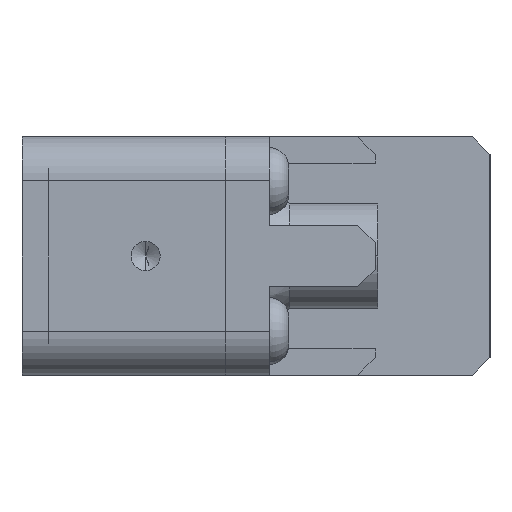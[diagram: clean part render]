
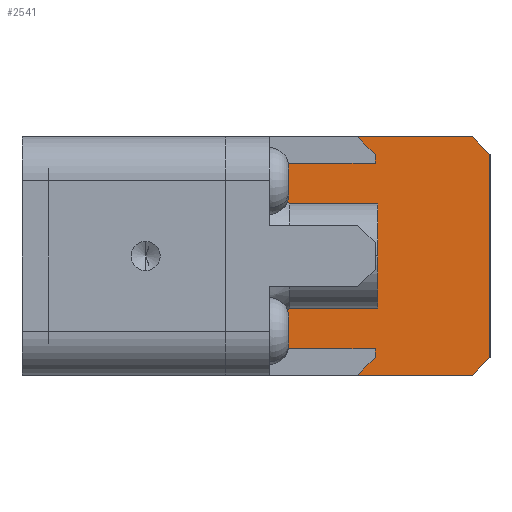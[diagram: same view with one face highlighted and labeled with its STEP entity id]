
A CAD part, left-side view. The second image highlights one B-rep face of the part: STEP entity #2541.
In plain terms, the highlighted planar face has unit normal (-1, 0, 0).
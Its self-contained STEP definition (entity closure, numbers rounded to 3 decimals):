
#125 = VERTEX_POINT ( 'NONE', #2930 ) ;
#451 = PLANE ( 'NONE',  #6505 ) ;
#567 = DIRECTION ( 'NONE',  ( 0., 1., 0. ) ) ;
#723 = ORIENTED_EDGE ( 'NONE', *, *, #2144, .T. ) ;
#1443 = EDGE_CURVE ( 'NONE', #125, #9687, #14210, .T. ) ;
#1666 = DIRECTION ( 'NONE',  ( 0., 0., 1. ) ) ;
#1953 = VECTOR ( 'NONE', #3671, 1000. ) ;
#2144 = EDGE_CURVE ( 'NONE', #2184, #125, #2277, .T. ) ;
#2184 = VERTEX_POINT ( 'NONE', #6077 ) ;
#2277 = LINE ( 'NONE', #7467, #9706 ) ;
#2435 = CARTESIAN_POINT ( 'NONE',  ( -65.5, 30., 11.5 ) ) ;
#2541 = ADVANCED_FACE ( 'NONE', ( #11734 ), #451, .F. ) ;
#2930 = CARTESIAN_POINT ( 'NONE',  ( -65.5, 5., 13.5 ) ) ;
#3671 = DIRECTION ( 'NONE',  ( 0., -0.707, -0.707 ) ) ;
#3801 = ORIENTED_EDGE ( 'NONE', *, *, #6635, .F. ) ;
#3849 = EDGE_CURVE ( 'NONE', #15575, #8784, #11165, .T. ) ;
#3972 = ORIENTED_EDGE ( 'NONE', *, *, #11789, .T. ) ;
#4063 = EDGE_CURVE ( 'NONE', #15575, #10914, #10750, .T. ) ;
#4646 = DIRECTION ( 'NONE',  ( 0., 0., -1. ) ) ;
#5513 = LINE ( 'NONE', #9141, #9383 ) ;
#6077 = CARTESIAN_POINT ( 'NONE',  ( -65.5, 5., -13.5 ) ) ;
#6235 = DIRECTION ( 'NONE',  ( 0., 0., 1. ) ) ;
#6465 = ORIENTED_EDGE ( 'NONE', *, *, #4063, .F. ) ;
#6505 = AXIS2_PLACEMENT_3D ( 'NONE', #10521, #7377, #4646 ) ;
#6635 = EDGE_CURVE ( 'NONE', #2184, #8784, #5513, .T. ) ;
#7314 = ORIENTED_EDGE ( 'NONE', *, *, #3849, .T. ) ;
#7377 = DIRECTION ( 'NONE',  ( 1., 0., 0. ) ) ;
#7467 = CARTESIAN_POINT ( 'NONE',  ( -65.5, 5., -13.5 ) ) ;
#7863 = DIRECTION ( 'NONE',  ( 0., 1., 0. ) ) ;
#8784 = VERTEX_POINT ( 'NONE', #13193 ) ;
#9141 = CARTESIAN_POINT ( 'NONE',  ( -65.5, 30., -13.5 ) ) ;
#9383 = VECTOR ( 'NONE', #567, 1000. ) ;
#9687 = VERTEX_POINT ( 'NONE', #13645 ) ;
#9706 = VECTOR ( 'NONE', #6235, 1000. ) ;
#10385 = VECTOR ( 'NONE', #14053, 1000. ) ;
#10521 = CARTESIAN_POINT ( 'NONE',  ( -65.5, 30., -13.5 ) ) ;
#10668 = CARTESIAN_POINT ( 'NONE',  ( -65.5, 30., 13.5 ) ) ;
#10750 = LINE ( 'NONE', #14201, #12476 ) ;
#10914 = VERTEX_POINT ( 'NONE', #15045 ) ;
#11153 = EDGE_LOOP ( 'NONE', ( #7314, #3801, #723, #14258, #3972, #6465 ) ) ;
#11165 = LINE ( 'NONE', #14969, #1953 ) ;
#11511 = VECTOR ( 'NONE', #7863, 1000. ) ;
#11734 = FACE_OUTER_BOUND ( 'NONE', #11153, .T. ) ;
#11789 = EDGE_CURVE ( 'NONE', #9687, #10914, #12817, .T. ) ;
#12476 = VECTOR ( 'NONE', #1666, 1000. ) ;
#12702 = CARTESIAN_POINT ( 'NONE',  ( -65.5, 30., -11.5 ) ) ;
#12817 = LINE ( 'NONE', #2435, #10385 ) ;
#13193 = CARTESIAN_POINT ( 'NONE',  ( -65.5, 28., -13.5 ) ) ;
#13645 = CARTESIAN_POINT ( 'NONE',  ( -65.5, 28., 13.5 ) ) ;
#14053 = DIRECTION ( 'NONE',  ( 0., 0.707, -0.707 ) ) ;
#14201 = CARTESIAN_POINT ( 'NONE',  ( -65.5, 30., -13.5 ) ) ;
#14210 = LINE ( 'NONE', #10668, #11511 ) ;
#14258 = ORIENTED_EDGE ( 'NONE', *, *, #1443, .T. ) ;
#14969 = CARTESIAN_POINT ( 'NONE',  ( -65.5, 30., -11.5 ) ) ;
#15045 = CARTESIAN_POINT ( 'NONE',  ( -65.5, 30., 11.5 ) ) ;
#15575 = VERTEX_POINT ( 'NONE', #12702 ) ;
